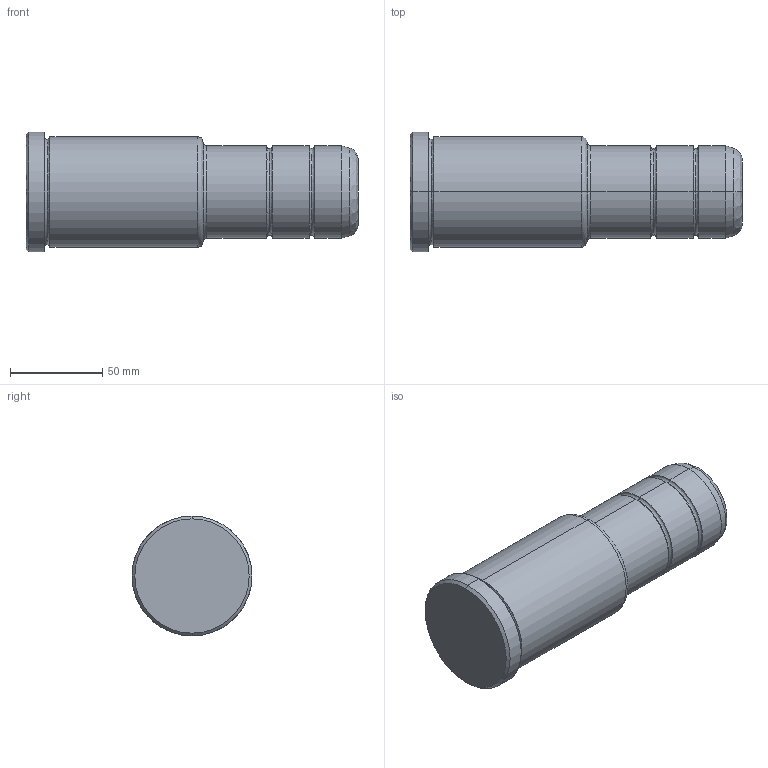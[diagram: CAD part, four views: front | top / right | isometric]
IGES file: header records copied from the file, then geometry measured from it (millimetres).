
Start section: START RECORD GO HERE.
Global section: file name: 351-50X96X180.igs; native system: DASSAULT SYSTEMES CATIA V5 R20 - www.3ds.com; preprocessor: CATIA Version 5 Release 20 ; author: Utente; organization: NB04-ASUS; date: 20211108.200002; units: millimetre
Bounding box: 180 x 65 x 65 mm (x, y, z)
Surface area: 37714.1 mm2 (no closed solid volume)
Topology: 0 solids, 0 shells, 35 faces, 196 edges, 196 vertices
Faces by surface type: revolution 32, plane 3
